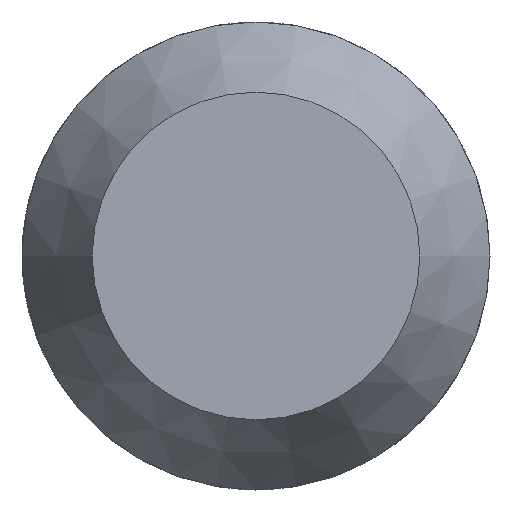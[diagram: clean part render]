
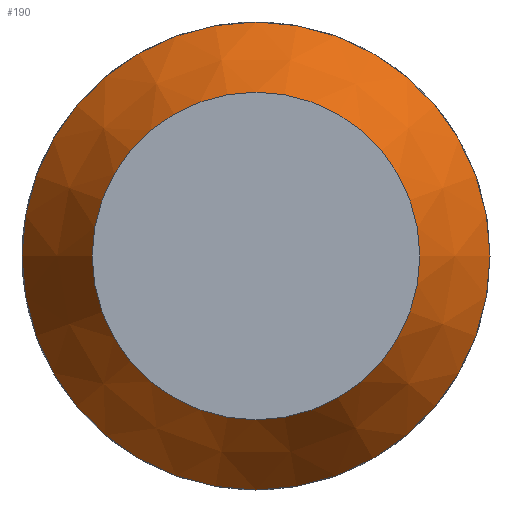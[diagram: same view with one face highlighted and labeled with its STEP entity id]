
A CAD part, left-side view. The second image highlights one B-rep face of the part: STEP entity #190.
In plain terms, the highlighted conical face has half-angle 30 degrees and reference radius 2.125 mm.
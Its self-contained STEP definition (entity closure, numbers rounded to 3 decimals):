
#27=FACE_OUTER_BOUND('',#38,.T.);
#38=EDGE_LOOP('',(#131,#132,#133,#134,#135,#136));
#49=LINE('',#313,#60);
#60=VECTOR('',#253,2.125);
#71=CIRCLE('',#222,2.5);
#72=CIRCLE('',#223,2.5);
#73=CIRCLE('',#224,1.75);
#74=CIRCLE('',#225,1.75);
#84=VERTEX_POINT('',#308);
#85=VERTEX_POINT('',#309);
#86=VERTEX_POINT('',#312);
#87=VERTEX_POINT('',#314);
#103=EDGE_CURVE('',#84,#85,#71,.T.);
#104=EDGE_CURVE('',#85,#84,#72,.T.);
#105=EDGE_CURVE('',#84,#86,#49,.T.);
#106=EDGE_CURVE('',#86,#87,#73,.T.);
#107=EDGE_CURVE('',#87,#86,#74,.T.);
#131=ORIENTED_EDGE('',*,*,#103,.T.);
#132=ORIENTED_EDGE('',*,*,#104,.T.);
#133=ORIENTED_EDGE('',*,*,#105,.T.);
#134=ORIENTED_EDGE('',*,*,#106,.T.);
#135=ORIENTED_EDGE('',*,*,#107,.T.);
#136=ORIENTED_EDGE('',*,*,#105,.F.);
#187=CONICAL_SURFACE('',#221,2.125,0.524);
#190=ADVANCED_FACE('',(#27),#187,.T.);
#221=AXIS2_PLACEMENT_3D('',#307,#247,#248);
#222=AXIS2_PLACEMENT_3D('',#310,#249,#250);
#223=AXIS2_PLACEMENT_3D('',#311,#251,#252);
#224=AXIS2_PLACEMENT_3D('',#315,#254,#255);
#225=AXIS2_PLACEMENT_3D('',#316,#256,#257);
#247=DIRECTION('center_axis',(1.,0.,0.));
#248=DIRECTION('ref_axis',(0.,-1.,0.));
#249=DIRECTION('center_axis',(-1.,0.,0.));
#250=DIRECTION('ref_axis',(0.,-1.,0.));
#251=DIRECTION('center_axis',(-1.,0.,0.));
#252=DIRECTION('ref_axis',(0.,-1.,0.));
#253=DIRECTION('',(-0.866,-0.5,0.));
#254=DIRECTION('center_axis',(1.,0.,0.));
#255=DIRECTION('ref_axis',(0.,1.,0.));
#256=DIRECTION('center_axis',(1.,0.,0.));
#257=DIRECTION('ref_axis',(0.,1.,0.));
#307=CARTESIAN_POINT('Origin',(3.4,0.,0.));
#308=CARTESIAN_POINT('',(4.049,2.5,0.));
#309=CARTESIAN_POINT('',(4.049,-2.5,0.));
#310=CARTESIAN_POINT('Origin',(4.049,0.,0.));
#311=CARTESIAN_POINT('Origin',(4.049,0.,0.));
#312=CARTESIAN_POINT('',(2.75,1.75,0.));
#313=CARTESIAN_POINT('',(3.4,2.125,0.));
#314=CARTESIAN_POINT('',(2.75,-1.75,0.));
#315=CARTESIAN_POINT('Origin',(2.75,0.,0.));
#316=CARTESIAN_POINT('Origin',(2.75,0.,0.));
